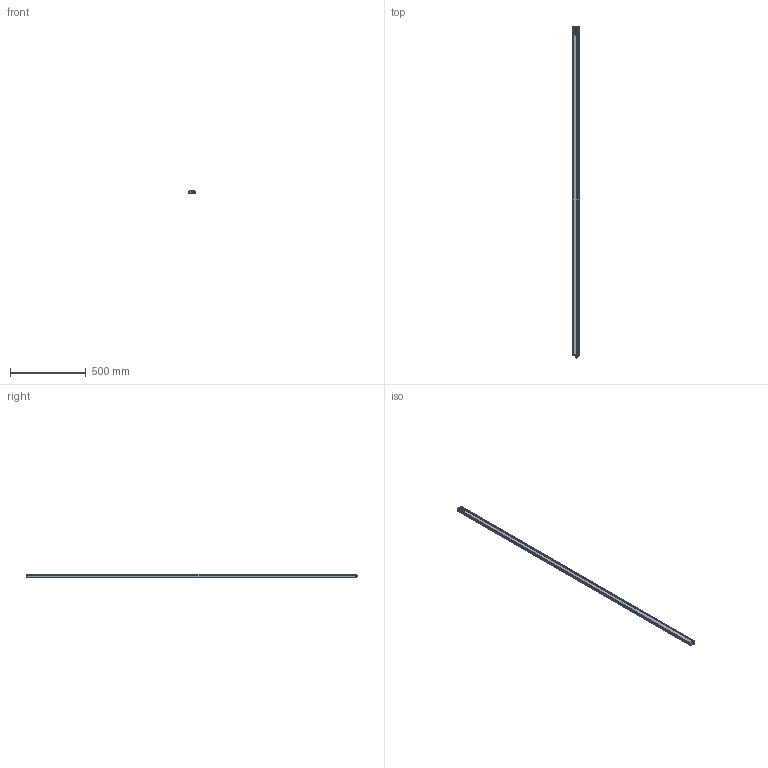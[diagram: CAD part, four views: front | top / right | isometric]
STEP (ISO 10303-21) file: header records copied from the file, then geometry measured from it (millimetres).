
FILE_DESCRIPTION(/* description */ (''),/* implementation_level */ '2;1');
FILE_NAME(/* name */ 'C:\Users\andre\SynologyDrive\Optoscan\Libreria Componenti\00 - Barriere\Barriera sorgente\Argo_2160_RX.stp',/* time_stamp */ '2021-04-22T12:27:30+02:00',/* author */ ('andre'),/* organization */ (''),/* preprocessor_version */ 'ST-DEVELOPER v18',/* originating_system */ 'Autodesk Inventor 2020',/* authorisation */ '');
FILE_SCHEMA (('AUTOMOTIVE_DESIGN { 1 0 10303 214 3 1 1 }'));
Length unit declared in the file: millimetre
Products named in the file (1): Argo_2160_RX
Bounding box: 40.5 x 2193.3 x 20.75 mm (x, y, z)
Volume: 431626.1 mm3; surface area: 573104.2 mm2
Topology: 1 solids, 1 shells, 692 faces, 1898 edges, 1217 vertices
Faces by surface type: plane 319, cylinder 195, bspline 94, torus 70, cone 8, sphere 6
Full cylindrical faces by diameter (mm): 1 x4, 2.459 x4, 2.5 x4, 3 x4, 3.5 x4, 5.5 x4, 8 x1, 10.5 x2, 11.75 x9, 15.7 x1, 17.5 x1
Entity records: 28165 total; most frequent: CARTESIAN_POINT 10195, ORIENTED_EDGE 3778, DIRECTION 3387, EDGE_CURVE 1889, VERTEX_POINT 1217, AXIS2_PLACEMENT_3D 1183, LINE 1021, VECTOR 1021
